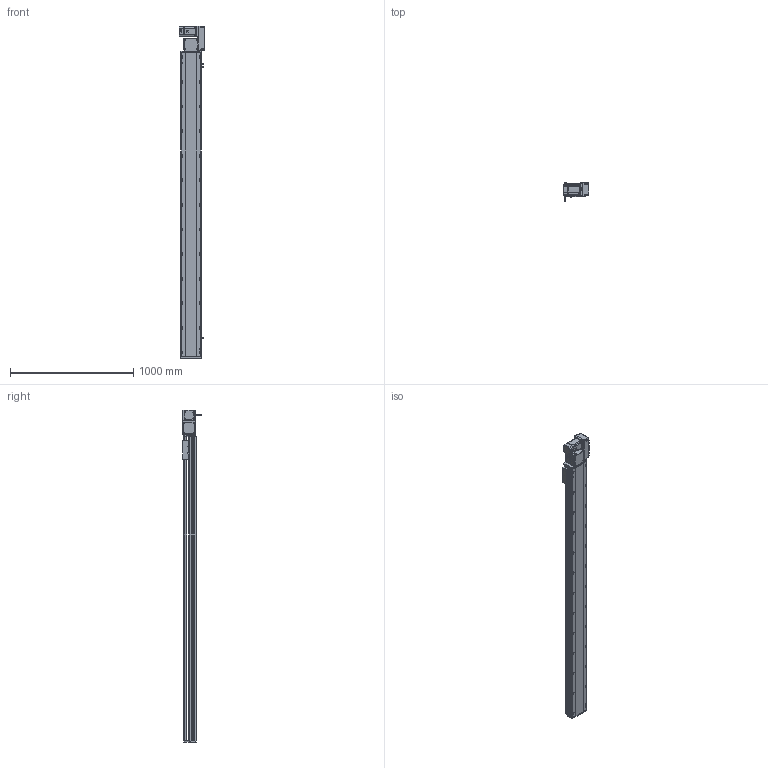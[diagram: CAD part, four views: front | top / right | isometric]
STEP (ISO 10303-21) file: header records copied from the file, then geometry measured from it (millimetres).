
FILE_DESCRIPTION (( 'STEP AP214' ), '1' );
FILE_NAME ('RTB17S-XX-2200-R-M75-C4.STEP', '2025-12-12T01:45:31', ( '' ), ( '' ), 'SwSTEP 2.0', 'SolidWorks 2018', '' );
FILE_SCHEMA (( 'AUTOMOTIVE_DESIGN' ));
Length unit declared in the file: millimetre
Products named in the file (15): RTB17S-L-014-T20-P75--々湍釱^RTB17S-R-々湍釱蚾饜-750W_RTB17S-XX-XX-R-M75-C4; RTB17S-L-001-耜醱啣^RTB17S-XX-XX-R-M75-C4; RTB22S-GY-005P^RTB17S-R-々湍釱蚾饜-750W_RTB17S-XX-XX-R-M75-C4; RTB22S-GY-017P^RTB17S-R-々湍釱蚾饜-750W_RTB17S-XX-XX-R-M75-C4; RTB17S-R-々湍釱蚾饜-750W^RTB17S-XX-XX-R-M75-C4; RTB17S-賑釱^RTB17S-XX-XX-R-M75-C4; EE672^RTB17S-XX-XX-R-M75-C4; RTB17S-XX-2200-R-M75-C4; RTB17-R-011菁釱^RTB17S-XX-XX-R-M75-C4; RTB17S-L-004-賑釱^RTB17S-賑釱_RTB17S-XX-XX-R-M75-C4; RTB22S-GY-018P^RTB17S-R-々湍釱蚾饜-750W_RTB17S-XX-XX-R-M75-C4; RTB22S-GY-008-M75--萇儂啣^RTB17S-R-々湍釱蚾饜-750W_RTB17S-XX-XX-R-M75-C4; 750W萇儂^RTB17S-XX-XX-R-M75-C4; RTB17S-L-007奻裔^RTB17S-XX-XX-R-M75-C4; RTH13-BL-012覜茼え俋离^RTB17S-賑釱_RTB17S-XX-XX-R-M75-C4
Assembly tree (17 placements, depth 3):
  RTB17S-XX-2200-R-M75-C4
    RTB17-R-011菁釱^RTB17S-XX-XX-R-M75-C4
    EE672^RTB17S-XX-XX-R-M75-C4  x3
    RTB17S-L-001-耜醱啣^RTB17S-XX-XX-R-M75-C4
    RTB17S-賑釱^RTB17S-XX-XX-R-M75-C4
      RTB17S-L-004-賑釱^RTB17S-賑釱_RTB17S-XX-XX-R-M75-C4
      RTH13-BL-012覜茼え俋离^RTB17S-賑釱_RTB17S-XX-XX-R-M75-C4
    RTB17S-L-007奻裔^RTB17S-XX-XX-R-M75-C4
    750W萇儂^RTB17S-XX-XX-R-M75-C4
    RTB17S-R-々湍釱蚾饜-750W^RTB17S-XX-XX-R-M75-C4
      RTB17S-L-014-T20-P75--々湍釱^RTB17S-R-々湍釱蚾饜-750W_RTB17S-XX-XX-R-M75-C4
      RTB22S-GY-005P^RTB17S-R-々湍釱蚾饜-750W_RTB17S-XX-XX-R-M75-C4
      RTB22S-GY-017P^RTB17S-R-々湍釱蚾饜-750W_RTB17S-XX-XX-R-M75-C4  x2
      RTB22S-GY-008-M75--萇儂啣^RTB17S-R-々湍釱蚾饜-750W_RTB17S-XX-XX-R-M75-C4
      RTB22S-GY-018P^RTB17S-R-々湍釱蚾饜-750W_RTB17S-XX-XX-R-M75-C4
Bounding box: 207.4 x 152.7 x 2699 mm (x, y, z)
Volume: 19705150.8 mm3; surface area: 3544014.8 mm2
Topology: 17 solids, 17 shells, 2185 faces, 6106 edges, 3950 vertices
Faces by surface type: plane 982, cylinder 787, bspline 294, cone 110, sphere 8, torus 4
Entity records: 62710 total; most frequent: CARTESIAN_POINT 18570, ORIENTED_EDGE 9056, DIRECTION 8402, EDGE_CURVE 4528, AXIS2_PLACEMENT_3D 2970, VERTEX_POINT 2954, VECTOR 2462, LINE 2462
